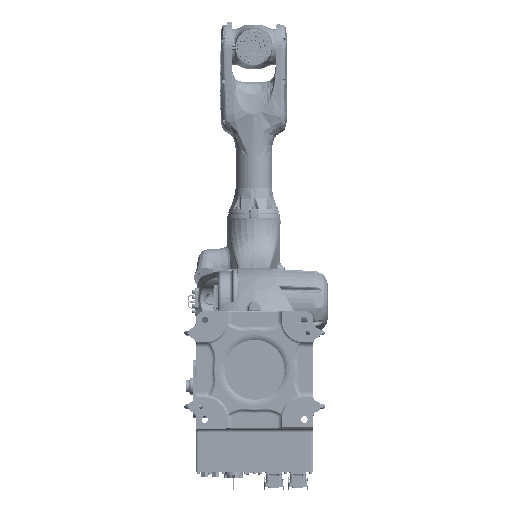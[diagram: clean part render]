
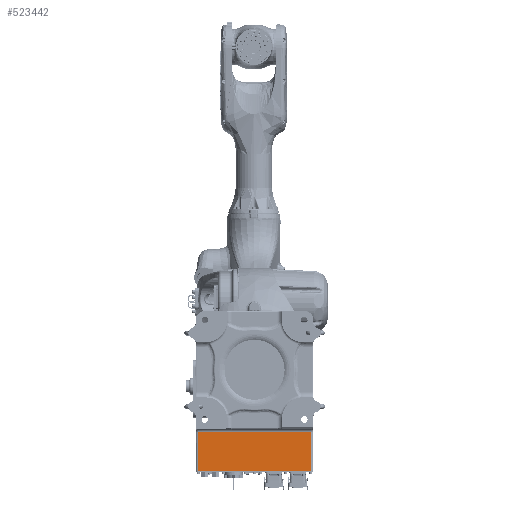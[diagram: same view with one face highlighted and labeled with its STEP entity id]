
A CAD part, front view. The second image highlights one B-rep face of the part: STEP entity #523442.
In plain terms, the highlighted planar face has unit normal (0, -1, 0).
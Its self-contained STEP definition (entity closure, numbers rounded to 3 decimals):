
#1699 = EDGE_CURVE ( 'NONE', #290557, #13231, #454554, .T. ) ;
#13231 = VERTEX_POINT ( 'NONE', #858300 ) ;
#46044 = CARTESIAN_POINT ( 'NONE',  ( -67.093, 8., -170. ) ) ;
#50621 = LINE ( 'NONE', #704506, #909075 ) ;
#91770 = EDGE_CURVE ( 'NONE', #838064, #384292, #703850, .T. ) ;
#112969 = DIRECTION ( 'NONE',  ( -1., 0., 0. ) ) ;
#115685 = CARTESIAN_POINT ( 'NONE',  ( -60.858, 8., -169.798 ) ) ;
#138828 = CARTESIAN_POINT ( 'NONE',  ( 0., 8., -169.798 ) ) ;
#143412 = DIRECTION ( 'NONE',  ( -1., 0., 0. ) ) ;
#154613 = EDGE_CURVE ( 'NONE', #290557, #772464, #50621, .T. ) ;
#158733 = CARTESIAN_POINT ( 'NONE',  ( 60.858, 8., -169.798 ) ) ;
#159688 = CARTESIAN_POINT ( 'NONE',  ( -60.858, 8., -169.798 ) ) ;
#169282 = CARTESIAN_POINT ( 'NONE',  ( -68.341, 8., -170. ) ) ;
#176459 = DIRECTION ( 'NONE',  ( 0., 1., 0. ) ) ;
#191573 = LINE ( 'NONE', #905789, #215239 ) ;
#215239 = VECTOR ( 'NONE', #112969, 1000. ) ;
#230400 = AXIS2_PLACEMENT_3D ( 'NONE', #464212, #176459, #334055 ) ;
#243389 = CARTESIAN_POINT ( 'NONE',  ( 153., 8., -275. ) ) ;
#254884 = EDGE_CURVE ( 'NONE', #621820, #466976, #191573, .T. ) ;
#271802 = EDGE_CURVE ( 'NONE', #466976, #838064, #880880, .T. ) ;
#286849 = DIRECTION ( 'NONE',  ( -1., 0., 0. ) ) ;
#290276 = ORIENTED_EDGE ( 'NONE', *, *, #1699, .T. ) ;
#290557 = VERTEX_POINT ( 'NONE', #243389 ) ;
#301846 = EDGE_LOOP ( 'NONE', ( #695384, #733959, #290276, #657044, #624508, #412482, #831944 ) ) ;
#311204 = FACE_OUTER_BOUND ( 'NONE', #301846, .T. ) ;
#334055 = DIRECTION ( 'NONE',  ( 0., 0., 1. ) ) ;
#351246 = DIRECTION ( 'NONE',  ( -1., 0., 0. ) ) ;
#358981 = VECTOR ( 'NONE', #351246, 1000. ) ;
#384292 = VERTEX_POINT ( 'NONE', #844730 ) ;
#412482 = ORIENTED_EDGE ( 'NONE', *, *, #271802, .T. ) ;
#434054 = VECTOR ( 'NONE', #143412, 1000. ) ;
#439156 = CARTESIAN_POINT ( 'NONE',  ( -68.341, 8., -170. ) ) ;
#454554 = LINE ( 'NONE', #528792, #863532 ) ;
#458482 = CARTESIAN_POINT ( 'NONE',  ( -153., 8., -275. ) ) ;
#464212 = CARTESIAN_POINT ( 'NONE',  ( 0., 8., 0. ) ) ;
#466976 = VERTEX_POINT ( 'NONE', #159688 ) ;
#476882 = CARTESIAN_POINT ( 'NONE',  ( 0., 8., -170. ) ) ;
#523442 = ADVANCED_FACE ( 'NONE', ( #311204 ), #654707, .F. ) ;
#528792 = CARTESIAN_POINT ( 'NONE',  ( 153., 8., 0. ) ) ;
#556451 = DIRECTION ( 'NONE',  ( 0., 0., -1. ) ) ;
#564269 = CARTESIAN_POINT ( 'NONE',  ( -63.353, 8., -169.84 ) ) ;
#621820 = VERTEX_POINT ( 'NONE', #158733 ) ;
#624508 = ORIENTED_EDGE ( 'NONE', *, *, #254884, .T. ) ;
#624597 = VECTOR ( 'NONE', #556451, 1000. ) ;
#639584 = LINE ( 'NONE', #769548, #624597 ) ;
#654707 = PLANE ( 'NONE',  #230400 ) ;
#655197 = EDGE_CURVE ( 'NONE', #384292, #772464, #639584, .T. ) ;
#657044 = ORIENTED_EDGE ( 'NONE', *, *, #882666, .T. ) ;
#663233 = DIRECTION ( 'NONE',  ( 0., 0., 1. ) ) ;
#681689 = CARTESIAN_POINT ( 'NONE',  ( -65.846, 8., -169.942 ) ) ;
#686247 = CARTESIAN_POINT ( 'NONE',  ( -62.106, 8., -169.798 ) ) ;
#695384 = ORIENTED_EDGE ( 'NONE', *, *, #655197, .T. ) ;
#703850 = LINE ( 'NONE', #476882, #358981 ) ;
#704506 = CARTESIAN_POINT ( 'NONE',  ( 160., 8., -275. ) ) ;
#733959 = ORIENTED_EDGE ( 'NONE', *, *, #154613, .F. ) ;
#769548 = CARTESIAN_POINT ( 'NONE',  ( -153., 8., 0. ) ) ;
#772464 = VERTEX_POINT ( 'NONE', #458482 ) ;
#774421 = LINE ( 'NONE', #138828, #434054 ) ;
#831944 = ORIENTED_EDGE ( 'NONE', *, *, #91770, .T. ) ;
#838064 = VERTEX_POINT ( 'NONE', #439156 ) ;
#844730 = CARTESIAN_POINT ( 'NONE',  ( -153., 8., -170. ) ) ;
#858300 = CARTESIAN_POINT ( 'NONE',  ( 153., 8., -169.798 ) ) ;
#863532 = VECTOR ( 'NONE', #663233, 1000. ) ;
#880880 = B_SPLINE_CURVE_WITH_KNOTS ( 'NONE', 3,
 ( #115685, #686247, #564269, #681689, #46044, #169282 ),
 .UNSPECIFIED., .F., .F.,
 ( 4, 2, 4 ),
 ( 0., 0.004, 0.007 ),
 .UNSPECIFIED. ) ;
#882666 = EDGE_CURVE ( 'NONE', #13231, #621820, #774421, .T. ) ;
#905789 = CARTESIAN_POINT ( 'NONE',  ( 0., 8., -169.798 ) ) ;
#909075 = VECTOR ( 'NONE', #286849, 1000. ) ;
